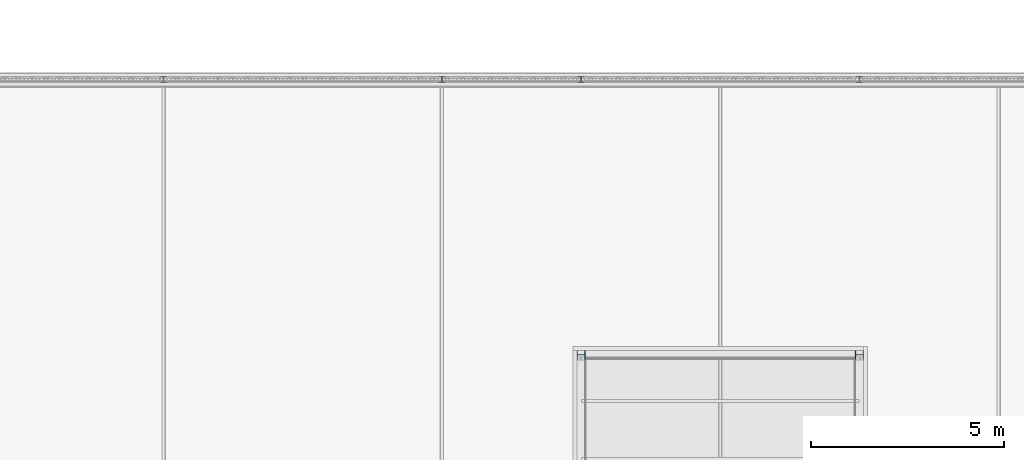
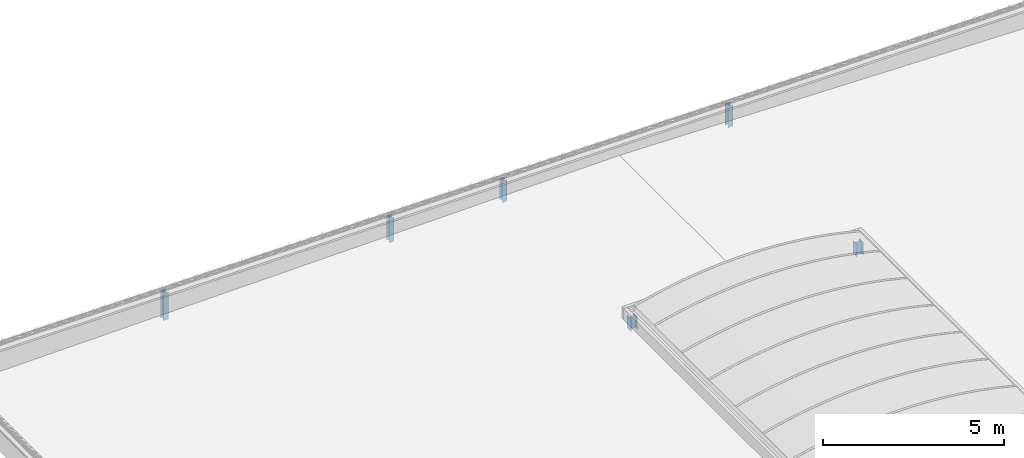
# One storey, part 26 of 81: 6 columns.
"""IFC2X3 building model written with IfcOpenShell, lengths in millimetres."""

from ifc_helpers import new_model, entity, si_unit, converted_unit, derived_unit, money_unit, direction, frame, origin_with_axes, place, context, subcontext, project, spatial, faceted_brep, material, type_object, element, save


model = new_model("IFC2X3")

# Units and contexts
model_context = context("Model", 3, precision=0.01, world=origin_with_axes(), true_north=direction((0.0, 1.0)))
body_context = subcontext(model_context, "Body", "Model", "MODEL_VIEW")
ifc_project = project(units=[si_unit("LENGTHUNIT", "METRE", prefix="MILLI"), si_unit("AREAUNIT", "SQUARE_METRE"), si_unit("VOLUMEUNIT", "CUBIC_METRE"), converted_unit("PLANEANGLEUNIT", "DEGREE", entity("IfcPlaneAngleMeasure", 0.0174532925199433), si_unit("PLANEANGLEUNIT", "RADIAN"), dimensions=[0, 0, 0, 0, 0, 0, 0]), money_unit("EUR"), converted_unit("TIMEUNIT", "Year", entity("IfcTimeMeasure", 31557600.0), si_unit("TIMEUNIT", "SECOND"), dimensions=[0, 0, 1, 0, 0, 0, 0]), si_unit("MASSUNIT", "GRAM", prefix="KILO"), si_unit("THERMODYNAMICTEMPERATUREUNIT", "DEGREE_CELSIUS"), si_unit("LUMINOUSINTENSITYUNIT", "LUMEN"), si_unit("ENERGYUNIT", "JOULE", prefix="MEGA"), derived_unit("THERMALCONDUCTANCEUNIT", [(si_unit("POWERUNIT", "WATT"), 1), (si_unit("LENGTHUNIT", "METRE"), -1), (si_unit("THERMODYNAMICTEMPERATUREUNIT", "KELVIN"), -1)]), derived_unit("SPECIFICHEATCAPACITYUNIT", [(si_unit("ENERGYUNIT", "JOULE"), 1), (si_unit("MASSUNIT", "GRAM", prefix="KILO"), -1), (si_unit("THERMODYNAMICTEMPERATUREUNIT", "KELVIN"), -1)]), derived_unit("MASSDENSITYUNIT", [(si_unit("MASSUNIT", "GRAM", prefix="KILO"), 1), (si_unit("VOLUMEUNIT", "CUBIC_METRE"), -1)])], contexts=[model_context])

# Site, building, storey
site_placement = place(None, origin_with_axes())
site = spatial("IfcSite", under=ifc_project, at=site_placement, Name="Site", CompositionType="ELEMENT")
building_placement = place(site_placement, origin_with_axes())
building = spatial("IfcBuilding", under=site, at=building_placement, Name="Naam gebouw", CompositionType="ELEMENT")
storey_placement = place(building_placement, frame((0.0, 0.0, 15320.0), z_axis=(0.0, 0.0, 1.0), x_axis=(1.0, 0.0, 0.0)))
storey = spatial("IfcBuildingStorey", under=building, at=storey_placement, Name="01 dak", CompositionType="ELEMENT", Elevation=15320.0)

# Columns
ifc_material = material(Name="Metaal - Staal C")
column_type_1 = type_object("IfcColumnType", Name="HEA220 220 x 210", PredefinedType="COLUMN")
for number, where, z_axis, x_axis, name in (
    (1, (43300.00000000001, 87600.0, -70.00000000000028), (0.0, 0.0, 1.0), (-1.0, 0.0, 0.0), "HEA220"),
    (2, (50500.00000000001, 87600.0, -70.00000000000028), (0.0, 0.0, 1.0), (-1.0, 0.0, 0.0), "HEA220"),
):
    element("IfcColumn", number, at=place(storey_placement, frame(where, z_axis=z_axis, x_axis=x_axis)), inside=storey, type_object=column_type_1, material=ifc_material, Name=name, ObjectType="COLUMN", context=body_context, shape_type="Brep", body=[
        faceted_brep([(-104.9999999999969, -109.9999999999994, 419.9999999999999), (-104.9999999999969, -109.9999999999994, 0.0), (-94.0000000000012, -109.9999999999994, 0.0), (-94.0000000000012, -109.9999999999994, 419.9999999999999), (-104.9999999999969, 109.9999999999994, 419.9999999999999), (-104.9999999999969, 109.9999999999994, 0.0), (-94.0000000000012, 109.9999999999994, 0.0), (-94.0000000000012, 3.500000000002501, 0.0), (94.0000000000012, 3.500000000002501, 0.0), (94.0000000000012, 109.9999999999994, 0.0), (104.9999999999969, 109.9999999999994, 0.0), (104.9999999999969, -109.9999999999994, 0.0), (94.0000000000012, -109.9999999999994, 0.0), (94.0000000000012, -3.500000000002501, 0.0), (-94.0000000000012, -3.500000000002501, 0.0), (-94.0000000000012, -3.500000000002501, 419.9999999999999), (94.0000000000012, -3.500000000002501, 419.9999999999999), (94.0000000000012, -109.9999999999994, 419.9999999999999), (104.9999999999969, -109.9999999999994, 419.9999999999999), (104.9999999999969, 109.9999999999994, 419.9999999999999), (94.0000000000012, 109.9999999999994, 419.9999999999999), (94.0000000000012, 3.500000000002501, 419.9999999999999), (-94.0000000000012, 3.500000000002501, 419.9999999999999), (-94.0000000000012, 109.9999999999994, 419.9999999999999)], [[[0, 1, 2, 3]], [[4, 5, 1, 0]], [[2, 1, 5, 6, 7, 8, 9, 10, 11, 12, 13, 14]], [[3, 2, 14, 15]], [[4, 0, 3, 15, 16, 17, 18, 19, 20, 21, 22, 23]], [[23, 6, 5, 4]], [[22, 7, 6, 23]], [[21, 8, 7, 22]], [[20, 9, 8, 21]], [[19, 10, 9, 20]], [[18, 11, 10, 19]], [[17, 12, 11, 18]], [[16, 13, 12, 17]], [[15, 14, 13, 16]]]),
    ])
column_type_2 = type_object("IfcColumnType", Name="HEA160 160 x 152", PredefinedType="COLUMN")
column_1_placement = place(storey_placement, frame((39699.99999999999, 94724.00000000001, -164.9999999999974), z_axis=(0.0, 0.0, 1.0), x_axis=(1.0, 0.0, 0.0)))
element("IfcColumn", 3, at=column_1_placement, inside=storey, type_object=column_type_2, material=ifc_material, Name="HEA160", ObjectType="COLUMN", context=body_context, shape_type="Brep", body=[
    faceted_brep([(-79.9999999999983, 75.9999999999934, 819.9606402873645), (-79.9999999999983, 75.9999999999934, 0.0), (-79.9999999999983, 66.99999999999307, 0.0), (-79.9999999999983, 66.99999999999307, 819.9606402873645), (79.9999999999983, 75.9999999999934, 819.9606402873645), (79.9999999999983, 75.9999999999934, 0.0), (79.9999999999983, 66.99999999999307, 0.0), (3.000000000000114, 66.99999999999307, 0.0), (3.000000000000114, -66.99999999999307, 0.0), (79.9999999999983, -66.99999999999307, 0.0), (79.9999999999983, -75.9999999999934, 0.0), (-79.9999999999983, -75.9999999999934, 0.0), (-79.9999999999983, -66.99999999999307, 0.0), (-3.000000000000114, -66.99999999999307, 0.0), (-3.000000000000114, 66.99999999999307, 0.0), (-3.000000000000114, 66.99999999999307, 819.9606402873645), (-3.000000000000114, -66.99999999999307, 819.9606402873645), (-79.9999999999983, -66.99999999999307, 819.9606402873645), (-79.9999999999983, -75.9999999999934, 819.9606402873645), (79.9999999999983, -75.9999999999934, 819.9606402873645), (79.9999999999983, -66.99999999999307, 819.9606402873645), (3.000000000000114, -66.99999999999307, 819.9606402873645), (3.000000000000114, 66.99999999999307, 819.9606402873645), (79.9999999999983, 66.99999999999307, 819.9606402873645)], [[[0, 1, 2, 3]], [[4, 5, 1, 0]], [[2, 1, 5, 6, 7, 8, 9, 10, 11, 12, 13, 14]], [[3, 2, 14, 15]], [[4, 0, 3, 15, 16, 17, 18, 19, 20, 21, 22, 23]], [[23, 6, 5, 4]], [[22, 7, 6, 23]], [[21, 8, 7, 22]], [[20, 9, 8, 21]], [[19, 10, 9, 20]], [[18, 11, 10, 19]], [[17, 12, 11, 18]], [[16, 13, 12, 17]], [[15, 14, 13, 16]]]),
])
column_2_placement = place(storey_placement, frame((32500.0, 94724.00000000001, -271.9226341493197), z_axis=(0.0, 0.0, 1.0), x_axis=(1.0, 0.0, 0.0)))
element("IfcColumn", 4, at=column_2_placement, inside=storey, type_object=column_type_2, material=ifc_material, Name="HEA160", ObjectType="COLUMN", context=body_context, shape_type="Brep", body=[
    faceted_brep([(-79.9999999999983, 75.9999999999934, 926.8832744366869), (-79.9999999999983, 75.9999999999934, 0.0), (-79.9999999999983, 66.99999999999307, 0.0), (-79.9999999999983, 66.99999999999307, 926.8832744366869), (79.9999999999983, 75.9999999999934, 926.8832744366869), (79.9999999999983, 75.9999999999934, 0.0), (79.9999999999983, 66.99999999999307, 0.0), (3.000000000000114, 66.99999999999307, 0.0), (3.000000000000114, -66.99999999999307, 0.0), (79.9999999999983, -66.99999999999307, 0.0), (79.9999999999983, -75.9999999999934, 0.0), (-79.9999999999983, -75.9999999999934, 0.0), (-79.9999999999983, -66.99999999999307, 0.0), (-3.000000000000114, -66.99999999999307, 0.0), (-3.000000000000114, 66.99999999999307, 0.0), (-3.000000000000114, 66.99999999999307, 926.8832744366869), (-3.000000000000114, -66.99999999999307, 926.8832744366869), (-79.9999999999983, -66.99999999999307, 926.8832744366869), (-79.9999999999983, -75.9999999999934, 926.8832744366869), (79.9999999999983, -75.9999999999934, 926.8832744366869), (79.9999999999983, -66.99999999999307, 926.8832744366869), (3.000000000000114, -66.99999999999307, 926.8832744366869), (3.000000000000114, 66.99999999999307, 926.8832744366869), (79.9999999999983, 66.99999999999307, 926.8832744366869)], [[[0, 1, 2, 3]], [[4, 5, 1, 0]], [[2, 1, 5, 6, 7, 8, 9, 10, 11, 12, 13, 14]], [[3, 2, 14, 15]], [[4, 0, 3, 15, 16, 17, 18, 19, 20, 21, 22, 23]], [[23, 6, 5, 4]], [[22, 7, 6, 23]], [[21, 8, 7, 22]], [[20, 9, 8, 21]], [[19, 10, 9, 20]], [[18, 11, 10, 19]], [[17, 12, 11, 18]], [[16, 13, 12, 17]], [[15, 14, 13, 16]]]),
])
column_3_placement = place(storey_placement, frame((43300.00000000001, 94724.00000000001, -72.09454259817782), z_axis=(0.0, 0.0, 1.0), x_axis=(-1.0, 0.0, 0.0)))
element("IfcColumn", 5, at=column_3_placement, inside=storey, type_object=column_type_2, material=ifc_material, Name="HEA160", ObjectType="COLUMN", context=body_context, shape_type="Brep", body=[
    faceted_brep([(-79.9999999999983, 75.9999999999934, 727.0551828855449), (-79.9999999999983, 75.9999999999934, 0.0), (-79.9999999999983, 66.99999999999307, 0.0), (-79.9999999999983, 66.99999999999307, 727.0551828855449), (79.9999999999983, 75.9999999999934, 727.0551828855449), (79.9999999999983, 75.9999999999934, 0.0), (79.9999999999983, 66.99999999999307, 0.0), (3.000000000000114, 66.99999999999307, 0.0), (3.000000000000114, -66.99999999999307, 0.0), (79.9999999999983, -66.99999999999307, 0.0), (79.9999999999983, -75.9999999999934, 0.0), (-79.9999999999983, -75.9999999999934, 0.0), (-79.9999999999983, -66.99999999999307, 0.0), (-3.000000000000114, -66.99999999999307, 0.0), (-3.000000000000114, 66.99999999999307, 0.0), (-3.000000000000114, 66.99999999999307, 727.0551828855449), (-3.000000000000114, -66.99999999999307, 727.0551828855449), (-79.9999999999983, -66.99999999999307, 727.0551828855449), (-79.9999999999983, -75.9999999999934, 727.0551828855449), (79.9999999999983, -75.9999999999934, 727.0551828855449), (79.9999999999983, -66.99999999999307, 727.0551828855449), (3.000000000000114, -66.99999999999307, 727.0551828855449), (3.000000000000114, 66.99999999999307, 727.0551828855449), (79.9999999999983, 66.99999999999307, 727.0551828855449)], [[[0, 1, 2, 3]], [[4, 5, 1, 0]], [[2, 1, 5, 6, 7, 8, 9, 10, 11, 12, 13, 14]], [[3, 2, 14, 15]], [[4, 0, 3, 15, 16, 17, 18, 19, 20, 21, 22, 23]], [[23, 6, 5, 4]], [[22, 7, 6, 23]], [[21, 8, 7, 22]], [[20, 9, 8, 21]], [[19, 10, 9, 20]], [[18, 11, 10, 19]], [[17, 12, 11, 18]], [[16, 13, 12, 17]], [[15, 14, 13, 16]]]),
])
column_4_placement = place(storey_placement, frame((50500.00000000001, 94724.00000000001, -72.30828128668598), z_axis=(0.0, 0.0, 1.0), x_axis=(-1.0, 0.0, 0.0)))
element("IfcColumn", 6, at=column_4_placement, inside=storey, type_object=column_type_2, material=ifc_material, Name="HEA160", ObjectType="COLUMN", context=body_context, shape_type="Brep", body=[
    faceted_brep([(-79.9999999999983, 75.9999999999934, 727.2689215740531), (-79.9999999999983, 75.9999999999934, 0.0), (-79.9999999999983, 66.99999999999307, 0.0), (-79.9999999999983, 66.99999999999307, 727.2689215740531), (79.9999999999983, 75.9999999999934, 727.2689215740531), (79.9999999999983, 75.9999999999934, 0.0), (79.9999999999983, 66.99999999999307, 0.0), (3.000000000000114, 66.99999999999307, 0.0), (3.000000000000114, -66.99999999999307, 0.0), (79.9999999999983, -66.99999999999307, 0.0), (79.9999999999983, -75.9999999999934, 0.0), (-79.9999999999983, -75.9999999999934, 0.0), (-79.9999999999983, -66.99999999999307, 0.0), (-3.000000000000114, -66.99999999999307, 0.0), (-3.000000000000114, 66.99999999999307, 0.0), (-3.000000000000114, 66.99999999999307, 727.2689215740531), (-3.000000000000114, -66.99999999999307, 727.2689215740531), (-79.9999999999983, -66.99999999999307, 727.2689215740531), (-79.9999999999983, -75.9999999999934, 727.2689215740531), (79.9999999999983, -75.9999999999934, 727.2689215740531), (79.9999999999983, -66.99999999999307, 727.2689215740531), (3.000000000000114, -66.99999999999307, 727.2689215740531), (3.000000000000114, 66.99999999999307, 727.2689215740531), (79.9999999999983, 66.99999999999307, 727.2689215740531)], [[[0, 1, 2, 3]], [[4, 5, 1, 0]], [[2, 1, 5, 6, 7, 8, 9, 10, 11, 12, 13, 14]], [[3, 2, 14, 15]], [[4, 0, 3, 15, 16, 17, 18, 19, 20, 21, 22, 23]], [[23, 6, 5, 4]], [[22, 7, 6, 23]], [[21, 8, 7, 22]], [[20, 9, 8, 21]], [[19, 10, 9, 20]], [[18, 11, 10, 19]], [[17, 12, 11, 18]], [[16, 13, 12, 17]], [[15, 14, 13, 16]]]),
])

save(model, "model.ifc")
